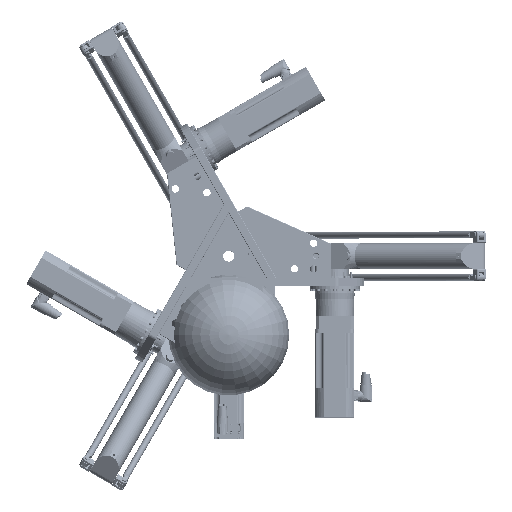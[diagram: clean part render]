
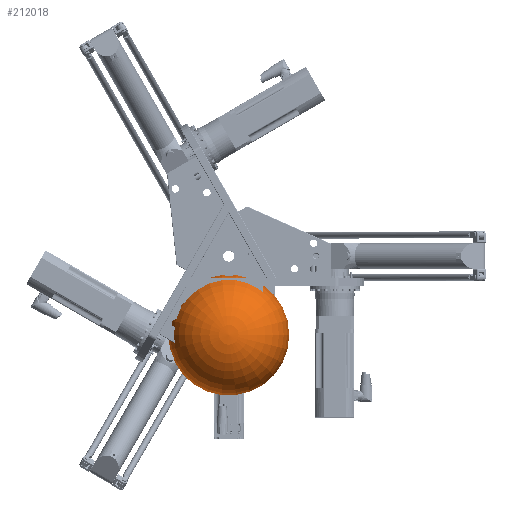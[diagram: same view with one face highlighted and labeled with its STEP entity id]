
A CAD part, top view. The second image highlights one B-rep face of the part: STEP entity #212018.
In plain terms, the highlighted toroidal (fillet/blend) face has major radius 0.044 mm and minor radius 142.912 mm.
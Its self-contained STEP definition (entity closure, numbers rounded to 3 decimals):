
#931 = DIRECTION ( 'NONE',  ( 0., 0., 1. ) ) ;
#5262 = CIRCLE ( 'NONE', #55366, 23.703 ) ;
#33026 = DIRECTION ( 'NONE',  ( 1., 0., 0. ) ) ;
#33313 = AXIS2_PLACEMENT_3D ( 'NONE', #99296, #931, #33026 ) ;
#37812 = CARTESIAN_POINT ( 'NONE',  ( 0., -185.84, -100.524 ) ) ;
#51217 = VERTEX_POINT ( 'NONE', #215537 ) ;
#55366 = AXIS2_PLACEMENT_3D ( 'NONE', #37812, #200835, #103885 ) ;
#55614 = ORIENTED_EDGE ( 'NONE', *, *, #123549, .F. ) ;
#64266 = FACE_OUTER_BOUND ( 'NONE', #173573, .T. ) ;
#82407 = TOROIDAL_SURFACE ( 'NONE', #33313, 0.044, 142.912 ) ;
#99296 = CARTESIAN_POINT ( 'NONE',  ( 0., -185.84, 40.416 ) ) ;
#103885 = DIRECTION ( 'NONE',  ( 1., 0., 0. ) ) ;
#123549 = EDGE_CURVE ( 'NONE', #51217, #51217, #5262, .T. ) ;
#173573 = EDGE_LOOP ( 'NONE', ( #55614 ) ) ;
#200835 = DIRECTION ( 'NONE',  ( 0., 0., 1. ) ) ;
#212018 = ADVANCED_FACE ( 'NONE', ( #64266 ), #82407, .T. ) ;
#215537 = CARTESIAN_POINT ( 'NONE',  ( 23.703, -185.84, -100.524 ) ) ;
